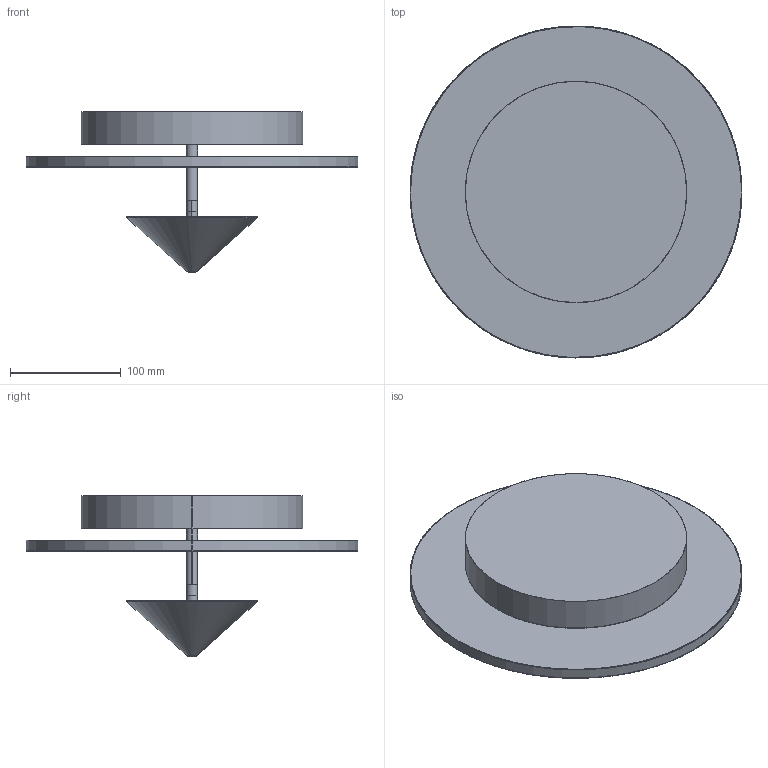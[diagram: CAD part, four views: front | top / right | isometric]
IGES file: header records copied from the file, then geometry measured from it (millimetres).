
Start section: SolidWorks IGES file using analytic representation for surfaces
Global section: file name: C:\Users\Agustin\Desktop\ENERO 2025\2D-3D\2D-3D ANZA 1336\2D-3D ANZA_A1336\ANZA_A1336.IGS; native system: SolidWorks 2018; preprocessor: SolidWorks 2018; author: Agustin; date: 250117.135837; units: millimetre
Bounding box: 300 x 300 x 145 mm (x, y, z)
Surface area: 280539 mm2 (no closed solid volume)
Topology: 0 solids, 0 shells, 45 faces, 1016 edges, 1016 vertices
Faces by surface type: bspline 25, revolution 20
